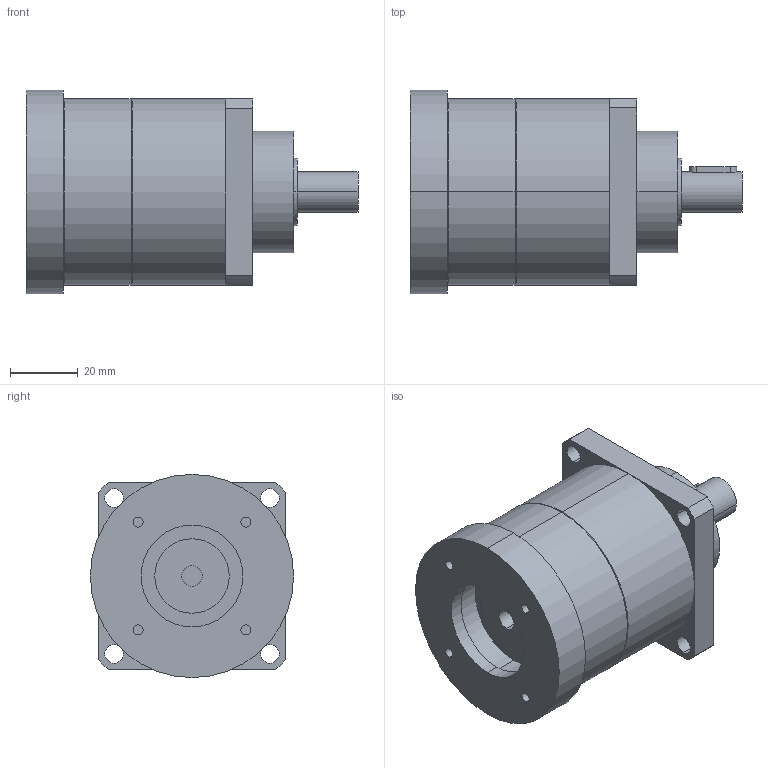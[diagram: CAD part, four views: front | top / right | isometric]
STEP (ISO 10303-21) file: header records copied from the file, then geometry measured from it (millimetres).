
FILE_DESCRIPTION(('CoCreate Modeling STEP Export'),'2;1');
FILE_NAME('GPT55_ig-3-4-5-7-10_12_B5A_6_P29.stp','2014-08-25T14:33:05',(''),(''),'CoCreate Modeling STEP processor for AP214 (Solid Model)','CoCreate Modeling 16.00C 25-Feb-2009 (C) Parametric Technology GmbH','');
FILE_SCHEMA(('AUTOMOTIVE_DESIGN { 1 0 10303 214 1 1 1 1 }'));
Length unit declared in the file: millimetre
Products named in the file (2): GPT55_ig-3-4-5-7-10_12_B5A_6_P29
Assembly tree (1 placements, depth 2):
  GPT55_ig-3-4-5-7-10_12_B5A_6_P29
    GPT55_ig-3-4-5-7-10_12_B5A_6_P29
Bounding box: 98 x 60 x 60 mm (x, y, z)
Volume: 174694.5 mm3; surface area: 24120.2 mm2
Topology: 1 solids, 1 shells, 75 faces, 187 edges, 128 vertices
Faces by surface type: cylinder 44, plane 27, cone 4
Entity records: 2307 total; most frequent: CARTESIAN_POINT 672, ORIENTED_EDGE 374, DIRECTION 278, EDGE_CURVE 187, VERTEX_POINT 128, AXIS2_PLACEMENT_3D 104, EDGE_LOOP 97, FACE_OUTER_BOUND 75
